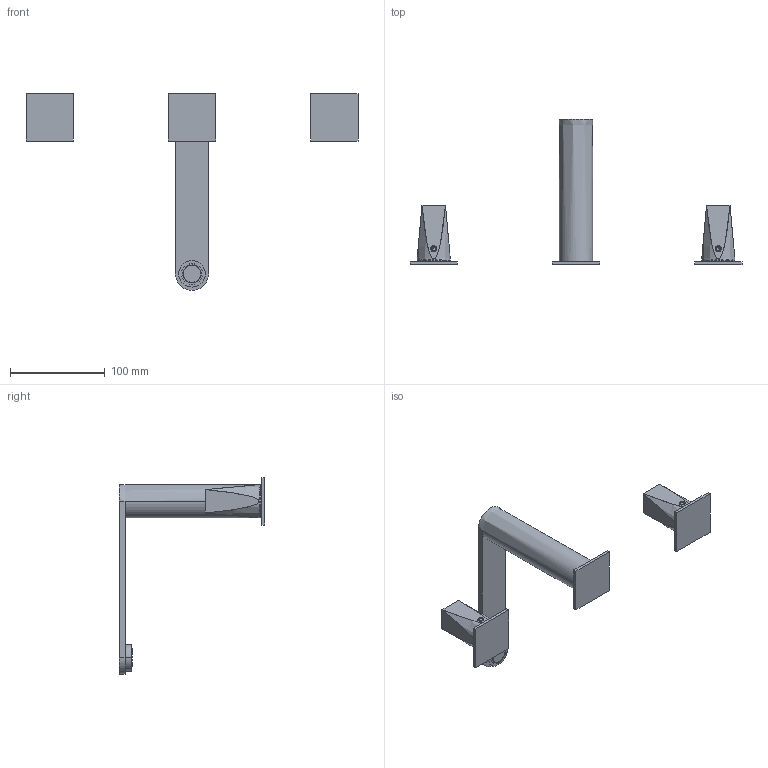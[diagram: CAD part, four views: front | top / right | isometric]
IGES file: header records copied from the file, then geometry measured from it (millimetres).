
Start section:  PTC IGES file: 49068.igs
Global section: file name: 49068.igs; native system: Creo Parametric by PTC Inc.; preprocessor: 2022014; author: carloff; organization: Unknown; date: 20230919.155349; units: millimetre
Bounding box: 350 x 153 x 207.5 mm (x, y, z)
Surface area: 66122.5 mm2 (no closed solid volume)
Topology: 0 solids, 0 shells, 174 faces, 836 edges, 832 vertices
Faces by surface type: revolution 97, bspline 77
